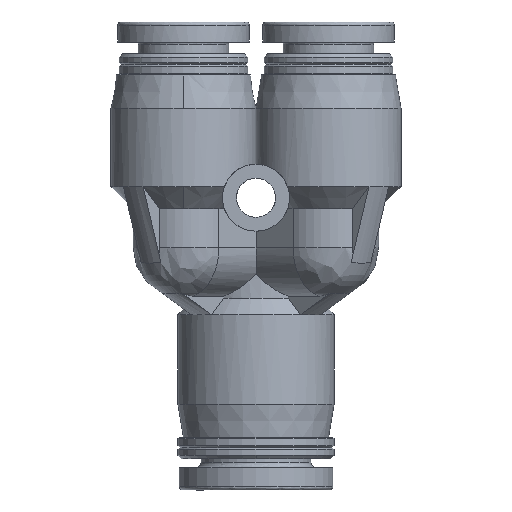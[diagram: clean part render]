
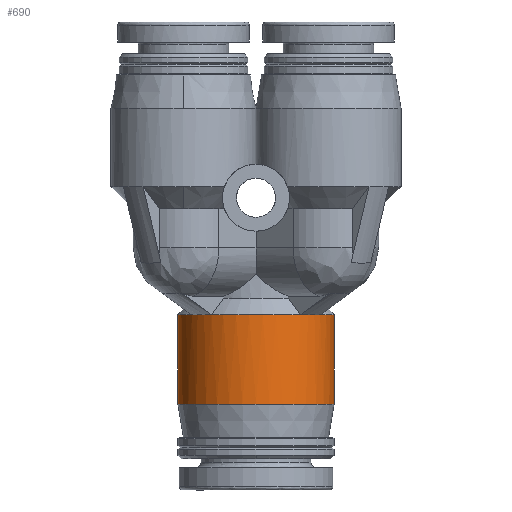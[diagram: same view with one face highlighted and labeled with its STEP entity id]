
A CAD part, front view. The second image highlights one B-rep face of the part: STEP entity #690.
In plain terms, the highlighted cylindrical face has radius 7 mm (diameter 14 mm), a partial arc.
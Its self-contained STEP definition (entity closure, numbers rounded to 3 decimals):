
#48 = CARTESIAN_POINT ( 'NONE',  ( -7., 0., -10.5 ) ) ;
#179 = CARTESIAN_POINT ( 'NONE',  ( -3.986, -5.754, -10.5 ) ) ;
#196 = ORIENTED_EDGE ( 'NONE', *, *, #2372, .F. ) ;
#219 = DIRECTION ( 'NONE',  ( 0., 0., -1. ) ) ;
#400 = ORIENTED_EDGE ( 'NONE', *, *, #2683, .T. ) ;
#445 = DIRECTION ( 'NONE',  ( 1., 0., 0. ) ) ;
#514 = ORIENTED_EDGE ( 'NONE', *, *, #9091, .F. ) ;
#593 = AXIS2_PLACEMENT_3D ( 'NONE', #1780, #8462, #2711 ) ;
#617 = EDGE_CURVE ( 'NONE', #8400, #3748, #7957, .T. ) ;
#665 = DIRECTION ( 'NONE',  ( 1., 0., 0. ) ) ;
#690 = ADVANCED_FACE ( '115', ( #4367 ), #1864, .T. ) ;
#755 = CARTESIAN_POINT ( 'NONE',  ( -5.754, -3.986, -10.5 ) ) ;
#790 = CARTESIAN_POINT ( 'NONE',  ( 7., 0., -18.5 ) ) ;
#1142 = B_SPLINE_CURVE_WITH_KNOTS ( 'NONE', 3,
 ( #3551, #9354, #5477, #12246 ),
 .UNSPECIFIED., .F., .F.,
 ( 4, 4 ),
 ( 0., 0.003 ),
 .UNSPECIFIED. ) ;
#1780 = CARTESIAN_POINT ( 'NONE',  ( 0., 0., -10.5 ) ) ;
#1783 = AXIS2_PLACEMENT_3D ( 'NONE', #11931, #6121, #445 ) ;
#1864 = CYLINDRICAL_SURFACE ( 'NONE', #7727, 7. ) ;
#2015 = EDGE_CURVE ( 'NONE', #5517, #5143, #7228, .T. ) ;
#2226 = CIRCLE ( 'NONE', #593, 7. ) ;
#2372 = EDGE_CURVE ( 'NONE', #5517, #11375, #10295, .T. ) ;
#2683 = EDGE_CURVE ( 'NONE', #5143, #7087, #3320, .T. ) ;
#2711 = DIRECTION ( 'NONE',  ( 1., 0., 0. ) ) ;
#3163 = CARTESIAN_POINT ( 'NONE',  ( -7., 0., -18.5 ) ) ;
#3320 = CIRCLE ( 'NONE', #1783, 7. ) ;
#3551 = CARTESIAN_POINT ( 'NONE',  ( 5.754, -3.986, -10.5 ) ) ;
#3593 = CARTESIAN_POINT ( 'NONE',  ( 3.986, -5.754, -10.5 ) ) ;
#3748 = VERTEX_POINT ( 'NONE', #755 ) ;
#4367 = FACE_OUTER_BOUND ( 'NONE', #11011, .T. ) ;
#4718 = VECTOR ( 'NONE', #8378, 1000. ) ;
#4948 = ORIENTED_EDGE ( 'NONE', *, *, #8678, .T. ) ;
#5081 = CARTESIAN_POINT ( 'NONE',  ( -5.754, -3.986, -10.5 ) ) ;
#5143 = VERTEX_POINT ( 'NONE', #12304 ) ;
#5177 = ORIENTED_EDGE ( 'NONE', *, *, #6178, .T. ) ;
#5297 = CARTESIAN_POINT ( 'NONE',  ( 5.754, -3.986, -10.5 ) ) ;
#5319 = CARTESIAN_POINT ( 'NONE',  ( 0., 0., -18.5 ) ) ;
#5395 = CARTESIAN_POINT ( 'NONE',  ( 0., 0., -18.5 ) ) ;
#5477 = CARTESIAN_POINT ( 'NONE',  ( 4.676, -5.276, -10.5 ) ) ;
#5517 = VERTEX_POINT ( 'NONE', #10346 ) ;
#5895 = CARTESIAN_POINT ( 'NONE',  ( 0., 0., -10.5 ) ) ;
#6121 = DIRECTION ( 'NONE',  ( 0., 0., -1. ) ) ;
#6178 = EDGE_CURVE ( 'NONE', #10249, #8400, #2226, .T. ) ;
#6197 = CARTESIAN_POINT ( 'NONE',  ( -4.676, -5.276, -10.5 ) ) ;
#6272 = DIRECTION ( 'NONE',  ( -0.997, 0.079, 0. ) ) ;
#6506 = DIRECTION ( 'NONE',  ( 0., 0., 1. ) ) ;
#6762 = VERTEX_POINT ( 'NONE', #48 ) ;
#6831 = CIRCLE ( 'NONE', #9249, 7. ) ;
#6877 = DIRECTION ( 'NONE',  ( 1., 0., 0. ) ) ;
#7087 = VERTEX_POINT ( 'NONE', #5297 ) ;
#7228 = LINE ( 'NONE', #790, #12383 ) ;
#7727 = AXIS2_PLACEMENT_3D ( 'NONE', #5395, #12158, #665 ) ;
#7957 = B_SPLINE_CURVE_WITH_KNOTS ( 'NONE', 3,
 ( #10004, #6197, #9017, #5081 ),
 .UNSPECIFIED., .F., .F.,
 ( 4, 4 ),
 ( 0., 0.003 ),
 .UNSPECIFIED. ) ;
#8378 = DIRECTION ( 'NONE',  ( 0., 0., 1. ) ) ;
#8400 = VERTEX_POINT ( 'NONE', #179 ) ;
#8462 = DIRECTION ( 'NONE',  ( 0., 0., -1. ) ) ;
#8678 = EDGE_CURVE ( 'NONE', #3748, #6762, #6831, .T. ) ;
#8712 = AXIS2_PLACEMENT_3D ( 'NONE', #5319, #12078, #6272 ) ;
#8798 = ORIENTED_EDGE ( 'NONE', *, *, #617, .T. ) ;
#9017 = CARTESIAN_POINT ( 'NONE',  ( -5.276, -4.676, -10.5 ) ) ;
#9091 = EDGE_CURVE ( 'NONE', #11375, #6762, #9879, .T. ) ;
#9249 = AXIS2_PLACEMENT_3D ( 'NONE', #5895, #219, #6877 ) ;
#9354 = CARTESIAN_POINT ( 'NONE',  ( 5.276, -4.676, -10.5 ) ) ;
#9392 = CARTESIAN_POINT ( 'NONE',  ( -7., 0., -18.5 ) ) ;
#9879 = LINE ( 'NONE', #9392, #4718 ) ;
#10004 = CARTESIAN_POINT ( 'NONE',  ( -3.986, -5.754, -10.5 ) ) ;
#10207 = EDGE_CURVE ( 'NONE', #7087, #10249, #1142, .T. ) ;
#10249 = VERTEX_POINT ( 'NONE', #3593 ) ;
#10295 = CIRCLE ( 'NONE', #8712, 7. ) ;
#10346 = CARTESIAN_POINT ( 'NONE',  ( 7., 0., -18.5 ) ) ;
#11011 = EDGE_LOOP ( 'NONE', ( #514, #196, #12064, #400, #11590, #5177, #8798, #4948 ) ) ;
#11375 = VERTEX_POINT ( 'NONE', #3163 ) ;
#11590 = ORIENTED_EDGE ( 'NONE', *, *, #10207, .T. ) ;
#11931 = CARTESIAN_POINT ( 'NONE',  ( 0., 0., -10.5 ) ) ;
#12064 = ORIENTED_EDGE ( 'NONE', *, *, #2015, .T. ) ;
#12078 = DIRECTION ( 'NONE',  ( 0., 0., -1. ) ) ;
#12158 = DIRECTION ( 'NONE',  ( 0., 0., 1. ) ) ;
#12246 = CARTESIAN_POINT ( 'NONE',  ( 3.986, -5.754, -10.5 ) ) ;
#12304 = CARTESIAN_POINT ( 'NONE',  ( 7., 0., -10.5 ) ) ;
#12383 = VECTOR ( 'NONE', #6506, 1000. ) ;
